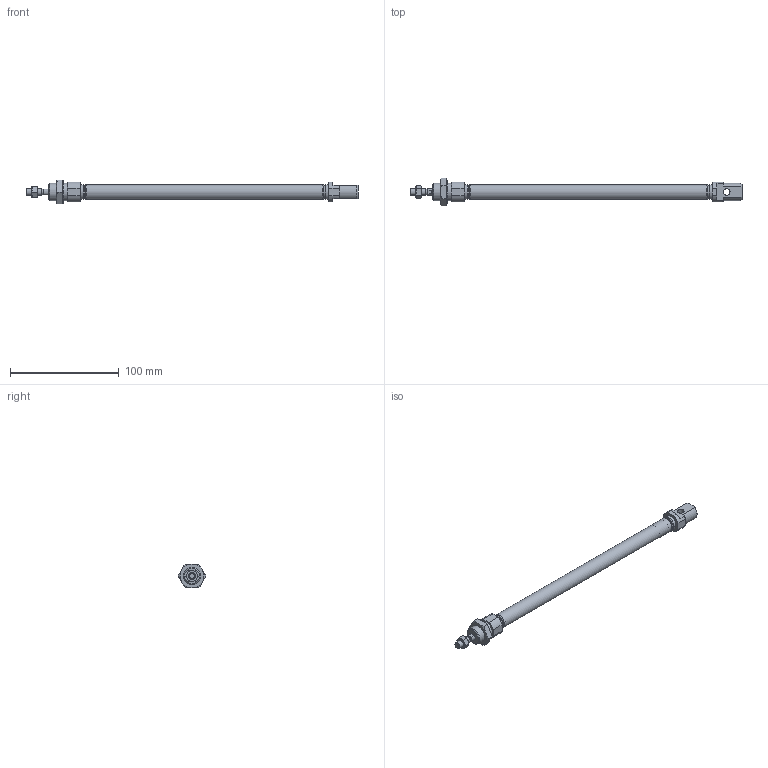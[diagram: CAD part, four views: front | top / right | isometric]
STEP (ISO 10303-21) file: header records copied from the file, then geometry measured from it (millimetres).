
FILE_DESCRIPTION( ( 'STEP AP214' ), '1' );
FILE_NAME( 'C:/Users/emc02044/Desktop/IA IAC/IA12X200-S.stp', '2026-07-20T09:15:21', ( 'License CC BY-ND 4.0' ), ( 'CADENAS' ), ' ', 'PARTsolutions', ' ' );
FILE_SCHEMA( ( 'AUTOMOTIVE_DESIGN { 1 0 10303 214 1 1 1 1 }' ) );
Length unit declared in the file: millimetre
Products named in the file (3): IA12X200-0-S()(0); _12X200-CA-S()_ia_body; _12X200-0_rod
Assembly tree (2 placements, depth 2):
  IA12X200-0-S()(0)
    _12X200-CA-S()_ia_body
    _12X200-0_rod
Bounding box: 305 x 25.4 x 22 mm (x, y, z)
Volume: 29211 mm3; surface area: 29119 mm2
Topology: 2 solids, 2 shells, 128 faces, 293 edges, 184 vertices
Faces by surface type: plane 51, cone 43, cylinder 28, torus 6
Full cylindrical faces by diameter (mm): 2 x1, 4.134 x2, 5.2 x1, 6 x6, 12 x2, 13.5 x3, 16 x2, 21 x1
Entity records: 4664 total; most frequent: CARTESIAN_POINT 891, DIRECTION 556, ORIENTED_EDGE 520, EDGE_CURVE 260, AXIS2_PLACEMENT_3D 241, VERTEX_POINT 180, EDGE_LOOP 174, FACE_OUTER_BOUND 152
